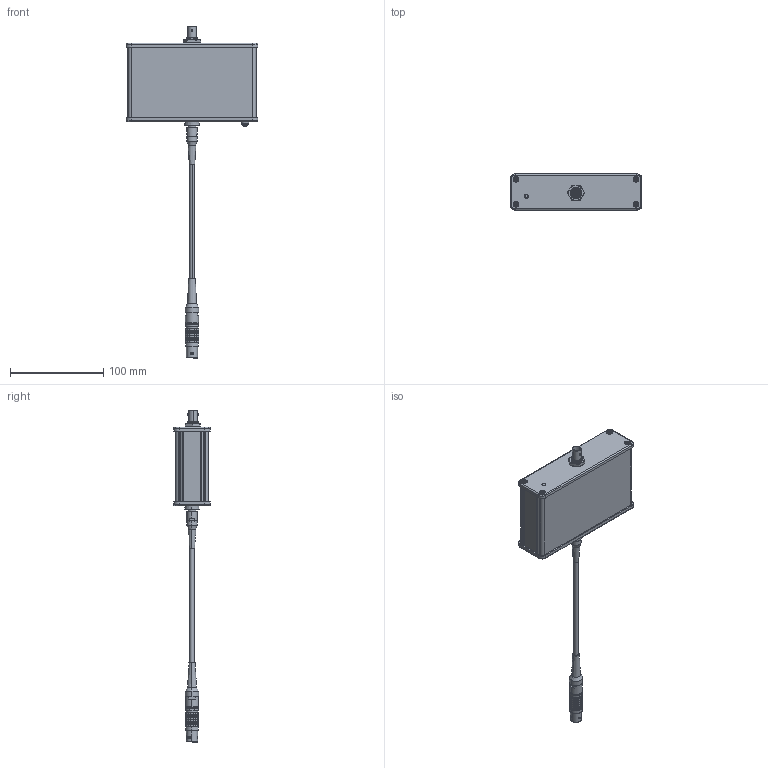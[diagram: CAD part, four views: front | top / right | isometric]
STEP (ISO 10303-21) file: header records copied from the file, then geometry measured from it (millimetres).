
FILE_DESCRIPTION (( 'STEP AP214' ), '1' );
FILE_NAME ('CM-10.STEP', '2023-05-30T18:05:58', ( '' ), ( '' ), 'SwSTEP 2.0', 'SolidWorks 2020', '' );
FILE_SCHEMA (( 'AUTOMOTIVE_DESIGN' ));
Length unit declared in the file: inch
Products named in the file (1): CM-10
Bounding box: 141.88 x 39.01 x 356.96 mm (x, y, z)
Surface area: 105064 mm2 (no closed solid volume)
Topology: 0 solids, 40 shells, 2064 faces, 5190 edges, 3230 vertices
Faces by surface type: plane 812, cylinder 501, cone 368, bspline 293, torus 84, sphere 6
Entity records: 93134 total; most frequent: CARTESIAN_POINT 33457, ORIENTED_EDGE 10172, DIRECTION 8856, EDGE_CURVE 5172, AXIS2_PLACEMENT_3D 3246, VERTEX_POINT 3230, LINE 2364, VECTOR 2364
